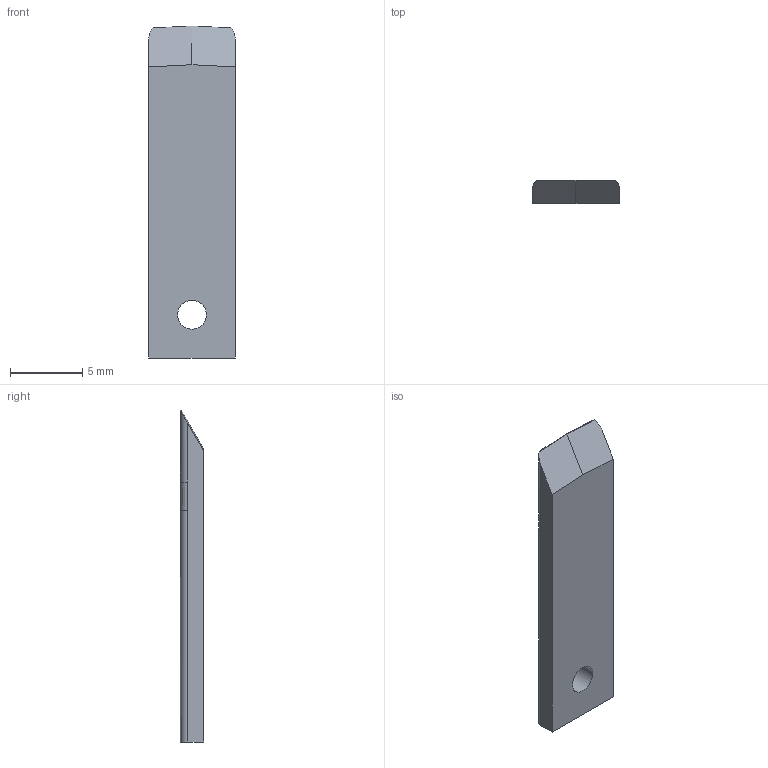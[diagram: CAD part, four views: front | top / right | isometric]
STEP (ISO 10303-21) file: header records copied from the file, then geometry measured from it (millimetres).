
FILE_DESCRIPTION(('CATIA V5 STEP Exchange'),'2;1');
FILE_NAME('G:\够快云库\系统集成开发部\1.部门成员\孙国\工装\切割工装\STP\0331\GZ-QG01._V1 模切刃口.stp','2021-03-31T06:34:53+00:00',('none'),('none'),'CATIA Version 5 Release 20 GA (IN-10)','CATIA V5 STEP AP214','none');
FILE_SCHEMA(('AUTOMOTIVE_DESIGN { 1 0 10303 214 1 1 1 1 }'));
Length unit declared in the file: millimetre
Products named in the file (1): 模切刃口
Bounding box: 6 x 1.6 x 23.05 mm (x, y, z)
Volume: 200.6 mm3; surface area: 350.8 mm2
Topology: 1 solids, 1 shells, 17 faces, 44 edges, 29 vertices
Faces by surface type: plane 9, cylinder 6, extrusion 2
Entity records: 556 total; most frequent: CARTESIAN_POINT 131, ORIENTED_EDGE 88, DIRECTION 66, EDGE_CURVE 44, VECTOR 31, LINE 29, VERTEX_POINT 29, AXIS2_PLACEMENT_3D 22
